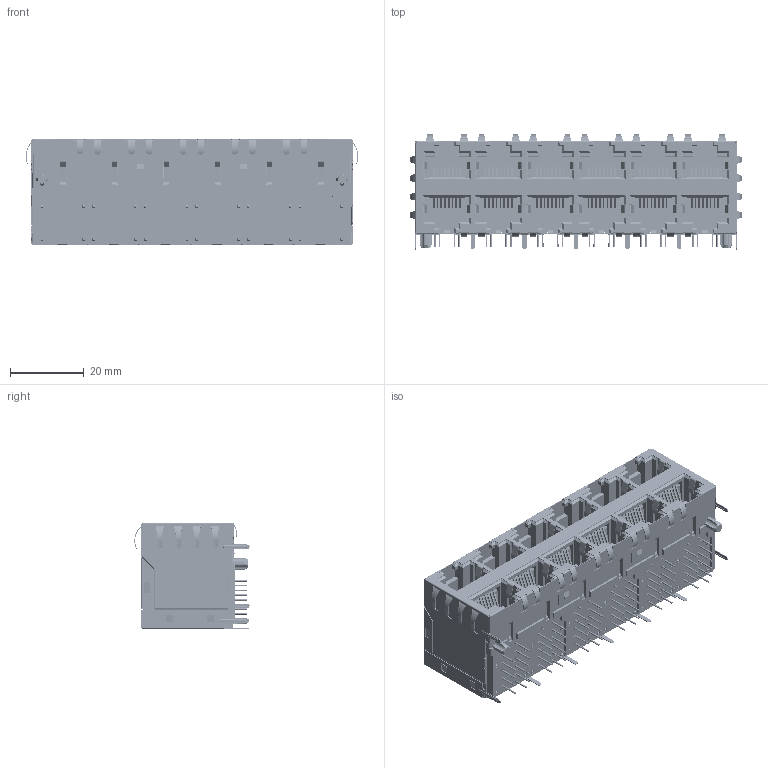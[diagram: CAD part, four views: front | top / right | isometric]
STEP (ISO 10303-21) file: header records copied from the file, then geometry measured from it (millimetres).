
FILE_DESCRIPTION((''),'2;1');
FILE_NAME('DGKYD26Q366HWA2D057_ASM','2020-04-20T19:07:09',('Administrator'),(''),'CREO PARAMETRIC BY PTC INC, 2018400','CREO PARAMETRIC BY PTC INC, 2018400','');
FILE_SCHEMA(('CONFIG_CONTROL_DESIGN'));
Products named in the file (5): PRT0010_2_1_1_1_1; PRT0010_2_1_1_ASM_1_ASM; PRT0009-S_3_2_1_1_1; 2X6_ASM_1_ASM_1_ASM_1_ASM_1_ASM; DGKYD26Q366HWA2D057_ASM
Assembly tree (4 placements, depth 4):
  DGKYD26Q366HWA2D057_ASM
    2X6_ASM_1_ASM_1_ASM_1_ASM_1_ASM
      PRT0010_2_1_1_ASM_1_ASM
        PRT0010_2_1_1_1_1
      PRT0009-S_3_2_1_1_1
Bounding box: 89.88 x 31.19 x 28.5 mm (x, y, z)
Volume: 45706.6 mm3; surface area: 46519 mm2
Topology: 2 solids, 11 shells, 12510 faces, 36789 edges, 23893 vertices
Faces by surface type: plane 9076, cylinder 3144, bspline 216, torus 50, sphere 16, cone 8
Entity records: 425507 total; most frequent: CARTESIAN_POINT 86611, ORIENTED_EDGE 73570, DIRECTION 67931, EDGE_CURVE 36785, VECTOR 28423, LINE 28423, VERTEX_POINT 23893, AXIS2_PLACEMENT_3D 19754
